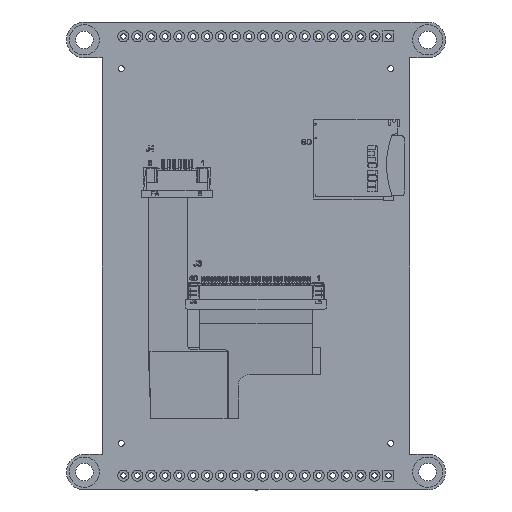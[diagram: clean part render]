
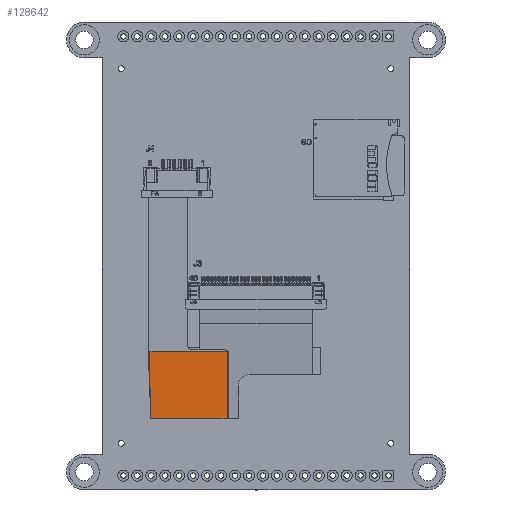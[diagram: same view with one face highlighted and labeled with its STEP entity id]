
A CAD part, top view. The second image highlights one B-rep face of the part: STEP entity #128642.
In plain terms, the highlighted planar face has unit normal (0, -0.044, 0.999).
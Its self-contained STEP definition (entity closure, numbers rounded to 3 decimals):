
#3048 = EDGE_LOOP ( 'NONE', ( #191624, #99191, #92557, #10923, #125947, #124190, #66397 ) ) ;
#4445 = DIRECTION ( 'NONE',  ( -1., 0., 0. ) ) ;
#6994 = CARTESIAN_POINT ( 'NONE',  ( 80.074, 33.296, 60.13 ) ) ;
#10923 = ORIENTED_EDGE ( 'NONE', *, *, #21652, .T. ) ;
#11757 = DIRECTION ( 'NONE',  ( 0., -0.044, 0.999 ) ) ;
#12807 = CARTESIAN_POINT ( 'NONE',  ( 80.074, 33.596, 60.143 ) ) ;
#12837 = CARTESIAN_POINT ( 'NONE',  ( 79.774, 45.884, 60.679 ) ) ;
#16974 = CARTESIAN_POINT ( 'NONE',  ( 93.874, 33.596, 60.143 ) ) ;
#18049 = VERTEX_POINT ( 'NONE', #192187 ) ;
#18800 = AXIS2_PLACEMENT_3D ( 'NONE', #12807, #11757, #75469 ) ;
#21652 = EDGE_CURVE ( 'NONE', #158306, #132235, #168298, .T. ) ;
#22002 = EDGE_CURVE ( 'NONE', #23637, #132613, #38469, .T. ) ;
#23637 = VERTEX_POINT ( 'NONE', #127346 ) ;
#25160 = VERTEX_POINT ( 'NONE', #46418 ) ;
#31873 = CARTESIAN_POINT ( 'NONE',  ( 88.974, 45.884, 60.679 ) ) ;
#36291 = FACE_OUTER_BOUND ( 'NONE', #3048, .T. ) ;
#38469 = B_SPLINE_CURVE_WITH_KNOTS ( 'NONE', 3,
 ( #49993, #147646, #62782, #143478 ),
 .UNSPECIFIED., .F., .F.,
 ( 4, 4 ),
 ( 0., 1. ),
 .UNSPECIFIED. ) ;
#39421 = VERTEX_POINT ( 'NONE', #110943 ) ;
#40393 = CARTESIAN_POINT ( 'NONE',  ( 93.574, 45.884, 60.679 ) ) ;
#42429 = CIRCLE ( 'NONE', #18800, 0.3 ) ;
#46418 = CARTESIAN_POINT ( 'NONE',  ( 79.774, 33.596, 60.143 ) ) ;
#48148 = CARTESIAN_POINT ( 'NONE',  ( 93.574, 45.585, 60.666 ) ) ;
#49993 = CARTESIAN_POINT ( 'NONE',  ( 93.574, 33.296, 60.13 ) ) ;
#61640 = CARTESIAN_POINT ( 'NONE',  ( 79.774, 45.884, 60.679 ) ) ;
#62782 = CARTESIAN_POINT ( 'NONE',  ( 84.574, 33.296, 60.13 ) ) ;
#66397 = ORIENTED_EDGE ( 'NONE', *, *, #143538, .T. ) ;
#73675 = B_SPLINE_CURVE_WITH_KNOTS ( 'NONE', 3,
 ( #93479, #206960, #170975, #16974 ),
 .UNSPECIFIED., .F., .F.,
 ( 4, 4 ),
 ( 0., 1. ),
 .UNSPECIFIED. ) ;
#75469 = DIRECTION ( 'NONE',  ( 0., 0.999, 0.044 ) ) ;
#75544 = EDGE_CURVE ( 'NONE', #132235, #18049, #167946, .T. ) ;
#76798 = AXIS2_PLACEMENT_3D ( 'NONE', #48148, #196647, #99095 ) ;
#92557 = ORIENTED_EDGE ( 'NONE', *, *, #127558, .F. ) ;
#93479 = CARTESIAN_POINT ( 'NONE',  ( 93.874, 45.585, 60.666 ) ) ;
#99095 = DIRECTION ( 'NONE',  ( 0., 0.999, 0.044 ) ) ;
#99191 = ORIENTED_EDGE ( 'NONE', *, *, #178541, .T. ) ;
#101066 = PLANE ( 'NONE',  #206677 ) ;
#104718 = DIRECTION ( 'NONE',  ( 0., 0.999, 0.044 ) ) ;
#110943 = CARTESIAN_POINT ( 'NONE',  ( 93.874, 33.596, 60.143 ) ) ;
#111506 = CARTESIAN_POINT ( 'NONE',  ( 79.774, 41.788, 60.501 ) ) ;
#119960 = CIRCLE ( 'NONE', #174157, 0.3 ) ;
#124190 = ORIENTED_EDGE ( 'NONE', *, *, #139010, .T. ) ;
#125947 = ORIENTED_EDGE ( 'NONE', *, *, #75544, .T. ) ;
#127346 = CARTESIAN_POINT ( 'NONE',  ( 93.574, 33.296, 60.13 ) ) ;
#127558 = EDGE_CURVE ( 'NONE', #158306, #39421, #73675, .T. ) ;
#128446 = CARTESIAN_POINT ( 'NONE',  ( 79.774, 37.692, 60.322 ) ) ;
#128642 = ADVANCED_FACE ( 'NONE', ( #36291 ), #101066, .T. ) ;
#132235 = VERTEX_POINT ( 'NONE', #40393 ) ;
#132613 = VERTEX_POINT ( 'NONE', #6994 ) ;
#135527 = DIRECTION ( 'NONE',  ( 0., -0.044, 0.999 ) ) ;
#139010 = EDGE_CURVE ( 'NONE', #18049, #25160, #145834, .T. ) ;
#142344 = CARTESIAN_POINT ( 'NONE',  ( 93.574, 45.884, 60.679 ) ) ;
#143478 = CARTESIAN_POINT ( 'NONE',  ( 80.074, 33.296, 60.13 ) ) ;
#143495 = CARTESIAN_POINT ( 'NONE',  ( 93.874, 45.585, 60.666 ) ) ;
#143538 = EDGE_CURVE ( 'NONE', #25160, #132613, #42429, .T. ) ;
#145834 = B_SPLINE_CURVE_WITH_KNOTS ( 'NONE', 3,
 ( #61640, #111506, #128446, #159274 ),
 .UNSPECIFIED., .F., .F.,
 ( 4, 4 ),
 ( 0., 1. ),
 .UNSPECIFIED. ) ;
#147646 = CARTESIAN_POINT ( 'NONE',  ( 89.074, 33.296, 60.13 ) ) ;
#149894 = DIRECTION ( 'NONE',  ( 0., -0.044, 0.999 ) ) ;
#152492 = CARTESIAN_POINT ( 'NONE',  ( 93.574, 33.596, 60.143 ) ) ;
#158306 = VERTEX_POINT ( 'NONE', #143495 ) ;
#159274 = CARTESIAN_POINT ( 'NONE',  ( 79.774, 33.596, 60.143 ) ) ;
#165763 = CARTESIAN_POINT ( 'NONE',  ( 99.074, -10.122, 58.234 ) ) ;
#167946 = B_SPLINE_CURVE_WITH_KNOTS ( 'NONE', 3,
 ( #142344, #31873, #174155, #12837 ),
 .UNSPECIFIED., .F., .F.,
 ( 4, 4 ),
 ( 0., 1. ),
 .UNSPECIFIED. ) ;
#168298 = CIRCLE ( 'NONE', #76798, 0.3 ) ;
#170975 = CARTESIAN_POINT ( 'NONE',  ( 93.874, 37.592, 60.317 ) ) ;
#174155 = CARTESIAN_POINT ( 'NONE',  ( 84.374, 45.884, 60.679 ) ) ;
#174157 = AXIS2_PLACEMENT_3D ( 'NONE', #152492, #135527, #104718 ) ;
#178541 = EDGE_CURVE ( 'NONE', #23637, #39421, #119960, .T. ) ;
#191624 = ORIENTED_EDGE ( 'NONE', *, *, #22002, .F. ) ;
#192187 = CARTESIAN_POINT ( 'NONE',  ( 79.774, 45.884, 60.679 ) ) ;
#196647 = DIRECTION ( 'NONE',  ( 0., -0.044, 0.999 ) ) ;
#206677 = AXIS2_PLACEMENT_3D ( 'NONE', #165763, #149894, #4445 ) ;
#206960 = CARTESIAN_POINT ( 'NONE',  ( 93.874, 41.588, 60.492 ) ) ;
